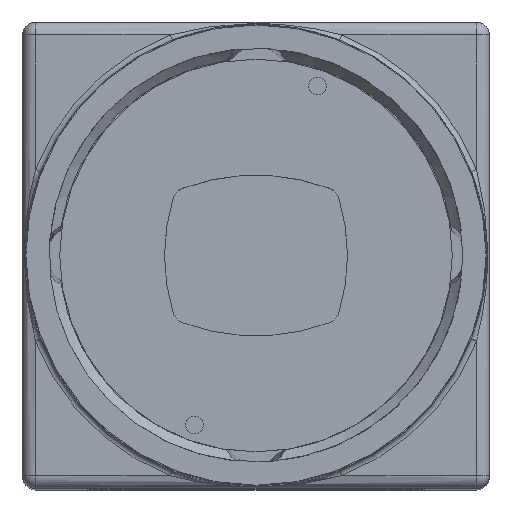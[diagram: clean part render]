
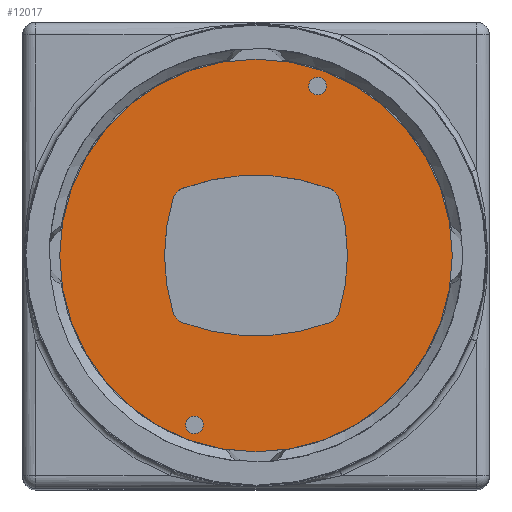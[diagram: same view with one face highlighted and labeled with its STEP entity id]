
A CAD part, top view. The second image highlights one B-rep face of the part: STEP entity #12017.
In plain terms, the highlighted planar face has unit normal (0, 0, 1).
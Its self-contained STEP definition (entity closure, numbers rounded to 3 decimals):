
#12017 = ADVANCED_FACE( '', ( #24334, #24335, #24336, #24337 ), #24338, .F. );
#24334 = FACE_BOUND( '', #41883, .T. );
#24335 = FACE_BOUND( '', #41884, .T. );
#24336 = FACE_BOUND( '', #41885, .T. );
#24337 = FACE_OUTER_BOUND( '', #41886, .T. );
#24338 = PLANE( '', #41887 );
#41883 = EDGE_LOOP( '', ( #67474 ) );
#41884 = EDGE_LOOP( '', ( #67475 ) );
#41885 = EDGE_LOOP( '', ( #67476, #67477, #67478, #67479, #67480, #67481, #67482, #67483 ) );
#41886 = EDGE_LOOP( '', ( #67484 ) );
#41887 = AXIS2_PLACEMENT_3D( '', #67485, #67486, #67487 );
#67474 = ORIENTED_EDGE( '', *, *, #71841, .T. );
#67475 = ORIENTED_EDGE( '', *, *, #76332, .T. );
#67476 = ORIENTED_EDGE( '', *, *, #77188, .T. );
#67477 = ORIENTED_EDGE( '', *, *, #72376, .T. );
#67478 = ORIENTED_EDGE( '', *, *, #76390, .T. );
#67479 = ORIENTED_EDGE( '', *, *, #76787, .T. );
#67480 = ORIENTED_EDGE( '', *, *, #76572, .T. );
#67481 = ORIENTED_EDGE( '', *, *, #76970, .T. );
#67482 = ORIENTED_EDGE( '', *, *, #71751, .T. );
#67483 = ORIENTED_EDGE( '', *, *, #76907, .T. );
#67484 = ORIENTED_EDGE( '', *, *, #74034, .F. );
#67485 = CARTESIAN_POINT( '', ( 1.907, 5.239, 5.8 ) );
#67486 = DIRECTION( '', ( 0., 0., -1. ) );
#67487 = DIRECTION( '', ( -1., 0., 0. ) );
#71751 = EDGE_CURVE( '', #81435, #81433, #81436, .T. );
#71841 = EDGE_CURVE( '', #81577, #81577, #81578, .T. );
#72376 = EDGE_CURVE( '', #82416, #82414, #82417, .T. );
#74034 = EDGE_CURVE( '', #84855, #84855, #84856, .T. );
#76332 = EDGE_CURVE( '', #87764, #87764, #87765, .T. );
#76390 = EDGE_CURVE( '', #82414, #87831, #87833, .T. );
#76572 = EDGE_CURVE( '', #88033, #88031, #88034, .T. );
#76787 = EDGE_CURVE( '', #87831, #88033, #88269, .T. );
#76907 = EDGE_CURVE( '', #81433, #88397, #88399, .T. );
#76970 = EDGE_CURVE( '', #88031, #81435, #88466, .T. );
#77188 = EDGE_CURVE( '', #88397, #82416, #88691, .T. );
#81433 = VERTEX_POINT( '', #94947 );
#81435 = VERTEX_POINT( '', #94950 );
#81436 = CIRCLE( '', #94951, 13. );
#81577 = VERTEX_POINT( '', #95150 );
#81578 = CIRCLE( '', #95151, 0.55 );
#82414 = VERTEX_POINT( '', #96363 );
#82416 = VERTEX_POINT( '', #96366 );
#82417 = CIRCLE( '', #96367, 1. );
#84855 = VERTEX_POINT( '', #100626 );
#84856 = CIRCLE( '', #100627, 12.2 );
#87764 = VERTEX_POINT( '', #105034 );
#87765 = CIRCLE( '', #105035, 0.55 );
#87831 = VERTEX_POINT( '', #105166 );
#87833 = CIRCLE( '', #105169, 13. );
#88031 = VERTEX_POINT( '', #105444 );
#88033 = VERTEX_POINT( '', #105447 );
#88034 = CIRCLE( '', #105448, 12. );
#88269 = CIRCLE( '', #105776, 1. );
#88397 = VERTEX_POINT( '', #105952 );
#88399 = CIRCLE( '', #105955, 1. );
#88466 = CIRCLE( '', #106044, 1. );
#88691 = CIRCLE( '', #106337, 12. );
#94947 = CARTESIAN_POINT( '', ( 4.548, 4.179, 5.8 ) );
#94950 = CARTESIAN_POINT( '', ( -4.548, 4.179, 5.8 ) );
#94951 = AXIS2_PLACEMENT_3D( '', #109263, #109264, #109265 );
#95150 = CARTESIAN_POINT( '', ( -3.831, -11.075, 5.8 ) );
#95151 = AXIS2_PLACEMENT_3D( '', #109357, #109358, #109359 );
#96363 = CARTESIAN_POINT( '', ( 4.548, -4.179, 5.8 ) );
#96366 = CARTESIAN_POINT( '', ( 5.153, -3.537, 5.8 ) );
#96367 = AXIS2_PLACEMENT_3D( '', #109961, #109962, #109963 );
#100626 = CARTESIAN_POINT( '', ( -12.2, 0., 5.8 ) );
#100627 = AXIS2_PLACEMENT_3D( '', #111665, #111666, #111667 );
#105034 = CARTESIAN_POINT( '', ( 3.831, 9.975, 5.8 ) );
#105035 = AXIS2_PLACEMENT_3D( '', #113917, #113918, #113919 );
#105166 = CARTESIAN_POINT( '', ( -4.548, -4.179, 5.8 ) );
#105169 = AXIS2_PLACEMENT_3D( '', #113957, #113958, #113959 );
#105444 = CARTESIAN_POINT( '', ( -5.153, 3.537, 5.8 ) );
#105447 = CARTESIAN_POINT( '', ( -5.153, -3.537, 5.8 ) );
#105448 = AXIS2_PLACEMENT_3D( '', #114092, #114093, #114094 );
#105776 = AXIS2_PLACEMENT_3D( '', #114251, #114252, #114253 );
#105952 = CARTESIAN_POINT( '', ( 5.153, 3.537, 5.8 ) );
#105955 = AXIS2_PLACEMENT_3D( '', #114317, #114318, #114319 );
#106044 = AXIS2_PLACEMENT_3D( '', #114358, #114359, #114360 );
#106337 = AXIS2_PLACEMENT_3D( '', #114460, #114461, #114462 );
#109263 = CARTESIAN_POINT( '', ( 0., -8., 5.8 ) );
#109264 = DIRECTION( '', ( 0., 0., -1. ) );
#109265 = DIRECTION( '', ( 1., 0., 0. ) );
#109357 = CARTESIAN_POINT( '', ( -3.831, -10.525, 5.8 ) );
#109358 = DIRECTION( '', ( 0., 0., -1. ) );
#109359 = DIRECTION( '', ( 0., -1., 0. ) );
#109961 = CARTESIAN_POINT( '', ( 4.198, -3.242, 5.8 ) );
#109962 = DIRECTION( '', ( 0., 0., -1. ) );
#109963 = DIRECTION( '', ( -1., 0., 0. ) );
#111665 = CARTESIAN_POINT( '', ( 0., 0., 5.8 ) );
#111666 = DIRECTION( '', ( 0., 0., -1. ) );
#111667 = DIRECTION( '', ( -1., 0., 0. ) );
#113917 = CARTESIAN_POINT( '', ( 3.831, 10.525, 5.8 ) );
#113918 = DIRECTION( '', ( 0., 0., -1. ) );
#113919 = DIRECTION( '', ( 0., -1., 0. ) );
#113957 = CARTESIAN_POINT( '', ( 0., 8., 5.8 ) );
#113958 = DIRECTION( '', ( 0., 0., -1. ) );
#113959 = DIRECTION( '', ( 1., 0., 0. ) );
#114092 = CARTESIAN_POINT( '', ( 6.314, 0., 5.8 ) );
#114093 = DIRECTION( '', ( 0., 0., -1. ) );
#114094 = DIRECTION( '', ( 1., 0., 0. ) );
#114251 = CARTESIAN_POINT( '', ( -4.198, -3.242, 5.8 ) );
#114252 = DIRECTION( '', ( 0., 0., -1. ) );
#114253 = DIRECTION( '', ( -1., 0., 0. ) );
#114317 = CARTESIAN_POINT( '', ( 4.198, 3.242, 5.8 ) );
#114318 = DIRECTION( '', ( 0., 0., -1. ) );
#114319 = DIRECTION( '', ( -1., 0., 0. ) );
#114358 = CARTESIAN_POINT( '', ( -4.198, 3.242, 5.8 ) );
#114359 = DIRECTION( '', ( 0., 0., -1. ) );
#114360 = DIRECTION( '', ( -1., 0., 0. ) );
#114460 = CARTESIAN_POINT( '', ( -6.314, 0., 5.8 ) );
#114461 = DIRECTION( '', ( 0., 0., -1. ) );
#114462 = DIRECTION( '', ( -1., 0., 0. ) );
